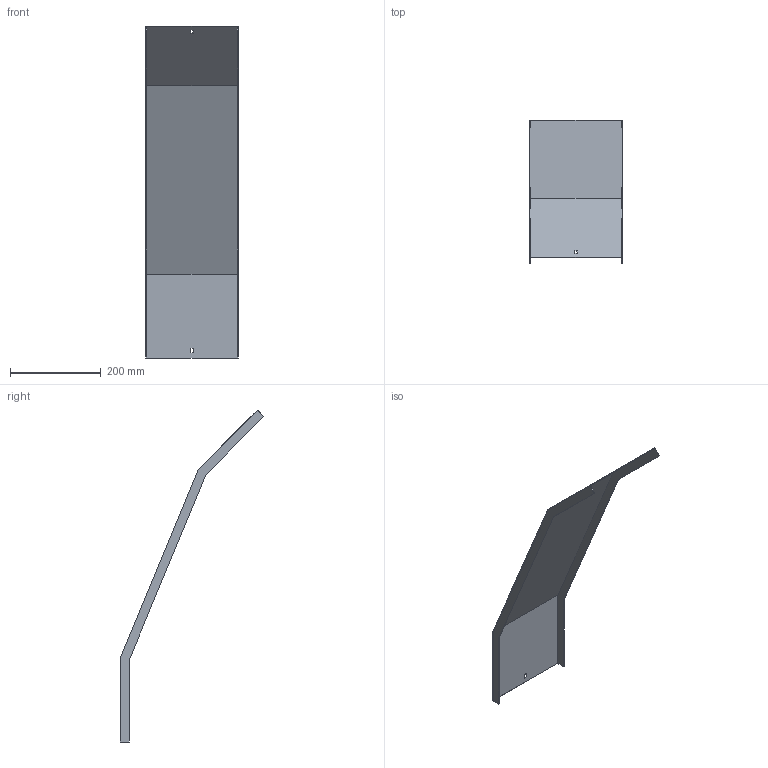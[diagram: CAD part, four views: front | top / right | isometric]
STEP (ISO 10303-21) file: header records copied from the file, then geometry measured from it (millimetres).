
FILE_DESCRIPTION (( 'STEP AP214' ), '1' );
FILE_NAME ('34N5F200.step', '2025-02-21T14:24:37', ( '' ), ( '' ), 'SwSTEP 2.0', 'SolidWorks 2023', '' );
FILE_SCHEMA (( 'AUTOMOTIVE_DESIGN' ));
Length unit declared in the file: millimetre
Products named in the file (1): 34N5F200
Bounding box: 203 x 316.43 x 729.78 mm (x, y, z)
Volume: 293616.8 mm3; surface area: 394709.8 mm2
Topology: 1 solids, 1 shells, 26 faces, 72 edges, 48 vertices
Faces by surface type: plane 26
Entity records: 847 total; most frequent: CARTESIAN_POINT 147, ORIENTED_EDGE 144, DIRECTION 126, EDGE_CURVE 72, VECTOR 72, LINE 72, VERTEX_POINT 48, EDGE_LOOP 30
